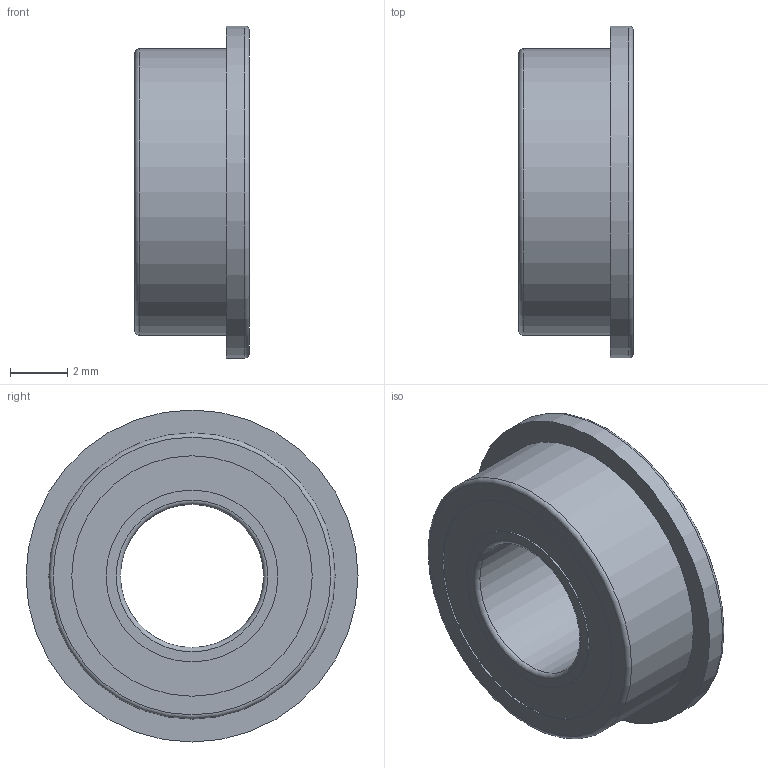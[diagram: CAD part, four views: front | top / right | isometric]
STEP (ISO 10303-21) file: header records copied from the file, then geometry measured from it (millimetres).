
FILE_DESCRIPTION(('FreeCAD Model'),'2;1');
FILE_NAME('Open CASCADE Shape Model','2021-04-30T14:47:55',(''),(''), 'Open CASCADE STEP processor 7.5','FreeCAD','Unknown');
FILE_SCHEMA(('AUTOMOTIVE_DESIGN { 1 0 10303 214 1 1 1 1 }'));
Length unit declared in the file: millimetre
Products named in the file (6): MF105ZZ; _MF105ZZ Outer Ring; _MF105ZZ Inner Ring; _MF105ZZ Shield1; _MF105ZZ Ball; _MF105ZZ Shield2
Assembly tree (16 placements, depth 2):
  MF105ZZ
    _MF105ZZ Outer Ring
    _MF105ZZ Inner Ring
    _MF105ZZ Shield1
    _MF105ZZ Ball  x12
    _MF105ZZ Shield2
Bounding box: 4 x 11.6 x 11.6 mm (x, y, z)
Volume: 190.4 mm3; surface area: 725.1 mm2
Topology: 16 solids, 16 shells, 40 faces, 81 edges, 52 vertices
Faces by surface type: cylinder 12, sphere 12, plane 11, torus 5
Full cylindrical faces by diameter (mm): 5 x1, 6 x3, 7.75 x2, 8.4 x4, 10 x1, 11.6 x1
Entity records: 1660 total; most frequent: CARTESIAN_POINT 325, DIRECTION 226, ORIENTED_EDGE 90, PCURVE 90, DEFINITIONAL_REPRESENTATION 90, AXIS2_PLACEMENT_3D 74, LINE 68, VECTOR 68
